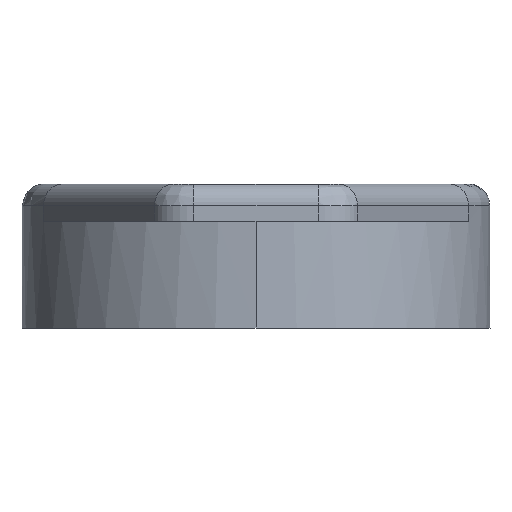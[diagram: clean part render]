
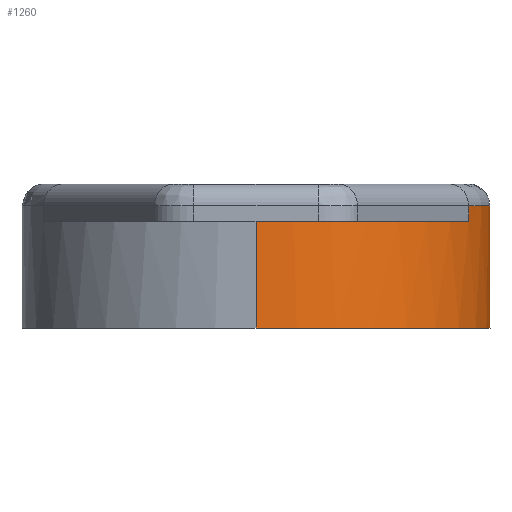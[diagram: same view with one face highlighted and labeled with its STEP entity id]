
A CAD part, left-side view. The second image highlights one B-rep face of the part: STEP entity #1260.
In plain terms, the highlighted cylindrical face has radius 16.25 mm (diameter 32.5 mm), a partial arc.
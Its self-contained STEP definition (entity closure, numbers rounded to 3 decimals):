
#1=CARTESIAN_POINT('',(0.,0.,-10.));
#2=DIRECTION('',(0.,0.,-1.));
#3=DIRECTION('',(1.,0.,0.));
#4=AXIS2_PLACEMENT_3D('',#1,#2,#3);
#75=DIRECTION('',(0.,0.,1.));
#76=VECTOR('',#75,1.5);
#77=CARTESIAN_POINT('',(15.75,-4.,-3.));
#78=LINE('',#77,#76);
#79=CARTESIAN_POINT('',(0.,0.,-3.));
#80=DIRECTION('',(0.,0.,1.));
#81=DIRECTION('',(0.969,-0.246,0.));
#82=AXIS2_PLACEMENT_3D('',#79,#80,#81);
#84=DIRECTION('',(0.,0.,-1.));
#85=VECTOR('',#84,7.);
#86=CARTESIAN_POINT('',(16.25,0.,-3.));
#87=LINE('',#86,#85);
#88=DIRECTION('',(0.,0.,-1.));
#89=VECTOR('',#88,7.4);
#90=CARTESIAN_POINT('',(-16.25,0.,-2.6));
#91=LINE('',#90,#89);
#92=CARTESIAN_POINT('',(0.,0.,-2.6));
#93=DIRECTION('',(0.,0.,1.));
#94=DIRECTION('',(-1.,0.,0.));
#95=AXIS2_PLACEMENT_3D('',#92,#93,#94);
#97=DIRECTION('',(0.,0.,1.));
#98=VECTOR('',#97,1.1);
#99=CARTESIAN_POINT('',(-6.79,-14.763,-2.6));
#100=LINE('',#99,#98);
#101=CARTESIAN_POINT('',(0.,0.,-1.5));
#102=DIRECTION('',(0.,0.,1.));
#103=DIRECTION('',(-0.418,-0.909,0.));
#104=AXIS2_PLACEMENT_3D('',#101,#102,#103);
#972=CARTESIAN_POINT('',(16.25,0.,-10.));
#973=CARTESIAN_POINT('',(-16.25,0.,-10.));
#974=VERTEX_POINT('',#972);
#975=VERTEX_POINT('',#973);
#996=CARTESIAN_POINT('',(16.25,0.,-3.));
#998=VERTEX_POINT('',#996);
#1002=CARTESIAN_POINT('',(15.75,-4.,-3.));
#1003=VERTEX_POINT('',#1002);
#1004=CARTESIAN_POINT('',(15.75,-4.,-1.5));
#1005=VERTEX_POINT('',#1004);
#1023=CARTESIAN_POINT('',(-16.25,0.,-2.6));
#1025=VERTEX_POINT('',#1023);
#1026=CARTESIAN_POINT('',(-6.79,-14.763,-2.6));
#1027=VERTEX_POINT('',#1026);
#1050=CARTESIAN_POINT('',(-6.79,-14.763,-1.5));
#1051=VERTEX_POINT('',#1050);
#1238=CARTESIAN_POINT('',(0.,0.,-10.5));
#1239=DIRECTION('',(0.,0.,1.));
#1240=DIRECTION('',(-1.,0.,0.));
#1241=AXIS2_PLACEMENT_3D('',#1238,#1239,#1240);
#1242=CYLINDRICAL_SURFACE('',#1241,16.25);
#1244=ORIENTED_EDGE('',*,*,#1243,.F.);
#1246=ORIENTED_EDGE('',*,*,#1245,.T.);
#1248=ORIENTED_EDGE('',*,*,#1247,.T.);
#1249=ORIENTED_EDGE('',*,*,#1131,.T.);
#1251=ORIENTED_EDGE('',*,*,#1250,.F.);
#1253=ORIENTED_EDGE('',*,*,#1252,.T.);
#1255=ORIENTED_EDGE('',*,*,#1254,.T.);
#1257=ORIENTED_EDGE('',*,*,#1256,.T.);
#1258=EDGE_LOOP('',(#1244,#1246,#1248,#1249,#1251,#1253,#1255,#1257));
#1259=FACE_OUTER_BOUND('',#1258,.F.);
#1260=ADVANCED_FACE('',(#1259),#1242,.T.);
#5=CIRCLE('',#4,16.25);
#83=CIRCLE('',#82,16.25);
#96=CIRCLE('',#95,16.25);
#105=CIRCLE('',#104,16.25);
#1131=EDGE_CURVE('',#974,#975,#5,.T.);
#1243=EDGE_CURVE('',#1003,#1005,#78,.T.);
#1245=EDGE_CURVE('',#1003,#998,#83,.T.);
#1247=EDGE_CURVE('',#998,#974,#87,.T.);
#1250=EDGE_CURVE('',#1025,#975,#91,.T.);
#1252=EDGE_CURVE('',#1025,#1027,#96,.T.);
#1254=EDGE_CURVE('',#1027,#1051,#100,.T.);
#1256=EDGE_CURVE('',#1051,#1005,#105,.T.);
